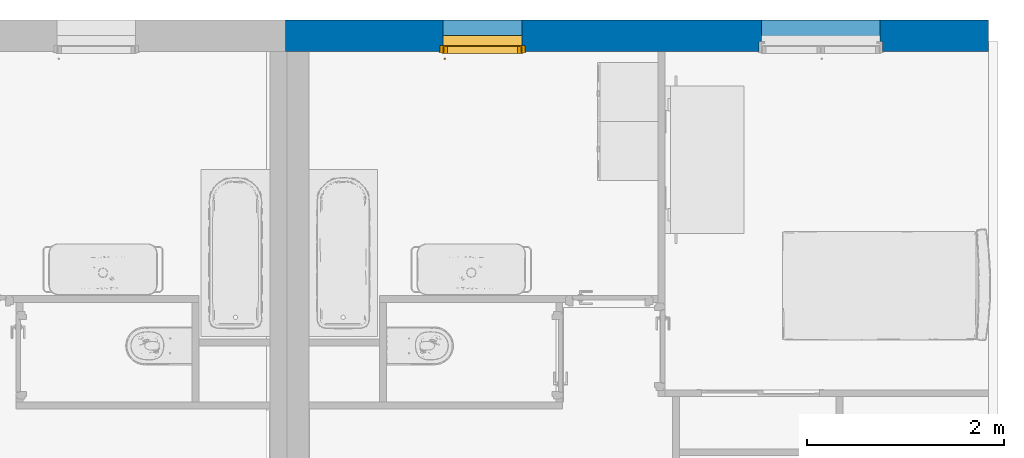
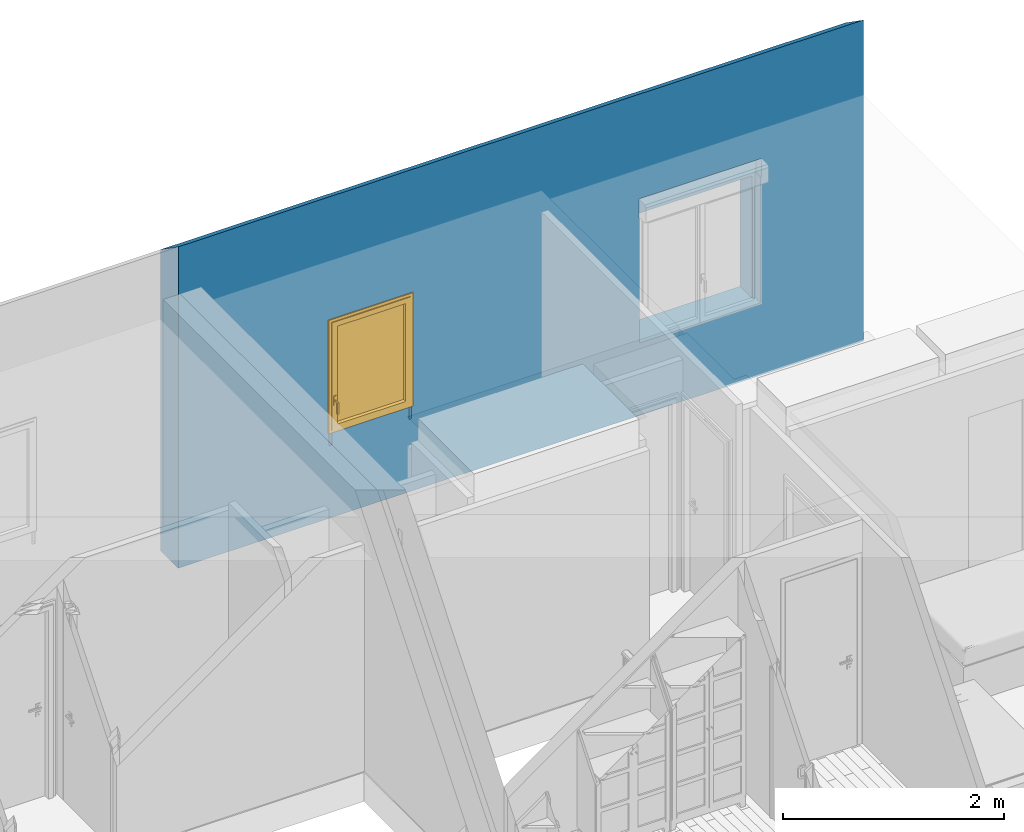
# One storey, part 45 of 61: 1 wall, 1 window, 2 openings.
"""IFC2X3 building model written with IfcOpenShell, lengths in metres."""

import ifcopenshell
import ifcopenshell.guid

model = None  # the IFC model being written
_history = None  # IfcOwnerHistory: only IFC2X3 demands one
_inside = {}  # id of a spatial element -> (the spatial element, [elements in it])
_under = {}  # id of a project, library or spatial element -> (it, [spatial elements below it])
_declared = {}  # id of a project -> (the project, [libraries it declares])
_typed = {}  # id of a type object -> (the type object, [elements of that type])
_made_of = {}  # id of a material, layer set ... -> (it, [elements and type objects made of it])


def new_model(schema):
    """Start an empty IFC model of exactly this schema.

    Asked for "IFC4X3", IfcOpenShell would pick the latest addendum, in which some entities
    have other attributes; the version numbers below select the first issue.
    IFC2X3 requires an IfcOwnerHistory on every rooted entity: one is made here for all.
    """
    global model, _history
    if schema == "IFC4X3":
        model = ifcopenshell.file(schema_version=(4, 3, 0, 0))
    else:
        model = ifcopenshell.file(schema=schema)
    _inside.clear()
    _under.clear()
    _declared.clear()
    _typed.clear()
    _made_of.clear()
    _history = None
    if model.schema == "IFC2X3":
        org = make("IfcOrganization", Name="unknown")
        user = make(
            "IfcPersonAndOrganization",
            ThePerson=make("IfcPerson", FamilyName="unknown"),
            TheOrganization=org,
        )
        app = make(
            "IfcApplication",
            ApplicationDeveloper=org,
            Version="unknown",
            ApplicationFullName="unknown",
            ApplicationIdentifier="unknown",
        )
        _history = make(
            "IfcOwnerHistory",
            OwningUser=user,
            OwningApplication=app,
            ChangeAction="ADDED",
            CreationDate=0,
        )
    return model


def make(cls, **values):
    """One entity of the class cls with the attributes given. An attribute that is None is left unset."""
    return model.create_entity(
        cls, **{name: value for name, value in values.items() if value is not None}
    )


def entity(cls, *values):
    """Any entity or typed value of the class cls, its attributes in the order of the schema. None: left unset."""
    e = model.create_entity(cls)
    for i, value in enumerate(values):
        if value is not None:
            e[i] = value
    return e


def rooted(cls, **values):
    """An entity with a GlobalId (a new one), such as an element, a storey or a relation."""
    return make(cls, GlobalId=ifcopenshell.guid.new(), OwnerHistory=_history, **values)


def si_unit(unit_type, name, prefix=None):
    """IfcSIUnit, for example si_unit("LENGTHUNIT", "METRE", prefix="MILLI")."""
    return make("IfcSIUnit", UnitType=unit_type, Prefix=prefix, Name=name)


def converted_unit(unit_type, name, factor, base, dimensions=None, offset=None):
    """IfcConversionBasedUnit, such as the inch: factor (a typed value) times the base unit."""
    return make(
        "IfcConversionBasedUnit"
        if offset is None
        else "IfcConversionBasedUnitWithOffset",
        ConversionOffset=offset,
        Dimensions=None
        if dimensions is None
        else entity("IfcDimensionalExponents", *dimensions),
        UnitType=unit_type,
        Name=name,
        ConversionFactor=make(
            "IfcMeasureWithUnit", ValueComponent=factor, UnitComponent=base
        ),
    )


def derived_unit(unit_type, elements):
    """IfcDerivedUnit: a product of units, each with its exponent."""
    return make(
        "IfcDerivedUnit",
        Elements=[
            make("IfcDerivedUnitElement", Unit=unit, Exponent=power)
            for unit, power in elements
        ],
        UnitType=unit_type,
    )


def assignment(units):
    """IfcUnitAssignment: the units of a project."""
    return None if units is None else make("IfcUnitAssignment", Units=units)


def point(xyz):
    """IfcCartesianPoint."""
    return None if xyz is None else make("IfcCartesianPoint", Coordinates=xyz)


def direction(xyz):
    """IfcDirection."""
    return None if xyz is None else make("IfcDirection", DirectionRatios=xyz)


def frame(location, z_axis=None, x_axis=None):
    """IfcAxis2Placement3D, a coordinate frame: its origin and axes. An axis left out is left unset."""
    return make(
        "IfcAxis2Placement3D",
        Location=point(location),
        Axis=direction(z_axis),
        RefDirection=direction(x_axis),
    )


def frame_2d(location, x_axis=None):
    """IfcAxis2Placement2D, a coordinate frame in the plane: its origin and x axis."""
    return make(
        "IfcAxis2Placement2D", Location=point(location), RefDirection=direction(x_axis)
    )


def origin():
    """The frame at (0, 0, 0) with its axes left unset."""
    return frame((0.0, 0.0, 0.0))


def place(relative_to, where):
    """IfcLocalPlacement: puts the frame where relative to a parent placement (None: the world)."""
    return make(
        "IfcLocalPlacement", PlacementRelTo=relative_to, RelativePlacement=where
    )


def context(
    kind, dimensions, precision=None, world=None, true_north=None, identifier=None
):
    """IfcGeometricRepresentationContext, for example the 3D "Model" context."""
    return make(
        "IfcGeometricRepresentationContext",
        ContextIdentifier=identifier,
        ContextType=kind,
        CoordinateSpaceDimension=dimensions,
        Precision=precision,
        WorldCoordinateSystem=world,
        TrueNorth=true_north,
    )


def subcontext(parent, identifier, kind, view, scale=None):
    """IfcGeometricRepresentationSubContext, for example "Body" below "Model"."""
    return make(
        "IfcGeometricRepresentationSubContext",
        ContextIdentifier=identifier,
        ContextType=kind,
        ParentContext=parent,
        TargetScale=scale,
        TargetView=view,
    )


def project(units=None, contexts=None):
    """IfcProject with its units and contexts."""
    return rooted(
        "IfcProject",
        Name="project",
        RepresentationContexts=contexts,
        UnitsInContext=assignment(units),
    )


def spatial(cls, under=None, at=None, **own):
    """A site, building, storey or space (cls), placed at a placement, below another one or the project."""
    s = rooted(cls, ObjectPlacement=at, **own)
    if under is not None:
        _under.setdefault(under.id(), (under, []))[1].append(s)
    return s


def polyline(points):
    """IfcPolyline through the points."""
    return make("IfcPolyline", Points=[point(p) for p in points])


def profile(cls, at=None, kind="AREA", **sizes):
    """A parametric profile (cls). Its sizes go by their IFC names, for example OverallWidth=200.0."""
    return make(cls, ProfileType=kind, Position=at, **sizes)


def rectangle(**sizes):
    """IfcRectangleProfileDef."""
    return profile("IfcRectangleProfileDef", **sizes)


def extrude(swept, where, along, depth):
    """IfcExtrudedAreaSolid: the profile swept, set in the frame where, extruded along a direction by depth."""
    return make(
        "IfcExtrudedAreaSolid",
        SweptArea=swept,
        Position=where,
        ExtrudedDirection=direction(along),
        Depth=depth,
    )


def clip(a, b, op="DIFFERENCE"):
    """IfcBooleanClippingResult: the solid a cut by the half space b."""
    return make(
        "IfcBooleanClippingResult", Operator=op, FirstOperand=a, SecondOperand=b
    )


def bounded_halfspace(plane, agree, where, boundary):
    """IfcPolygonalBoundedHalfSpace: a half space limited to a polygon's prism."""
    return make(
        "IfcPolygonalBoundedHalfSpace",
        BaseSurface=make("IfcPlane", Position=plane),
        AgreementFlag=agree,
        Position=where,
        PolygonalBoundary=boundary,
    )


def faces_of(points, faces, orient=None, outer=None):
    """IfcFace entities. A face is a list of loops; a loop is a list of indices into points, from 0.

    orient and outer hold one flag for each loop. By default every Orientation is true, the
    first loop of a face is its IfcFaceOuterBound and the others are IfcFaceBound.
    """
    made = []
    for i, loops in enumerate(faces):
        bounds = []
        for j, loop in enumerate(loops):
            is_outer = j == 0 if outer is None else outer[i][j]
            bounds.append(
                make(
                    "IfcFaceOuterBound" if is_outer else "IfcFaceBound",
                    Bound=make("IfcPolyLoop", Polygon=[points[k] for k in loop]),
                    Orientation=True if orient is None else orient[i][j],
                )
            )
        made.append(make("IfcFace", Bounds=bounds))
    return made


def faceted_brep(points, faces, orient=None, outer=None, voids=None):
    """IfcFacetedBrep: a solid bounded by flat faces; with voids (closed shells), ...WithVoids."""
    shared = [point(p) for p in points]
    hull = make("IfcClosedShell", CfsFaces=faces_of(shared, faces, orient, outer))
    if voids is None:
        return make("IfcFacetedBrep", Outer=hull)
    return make(
        "IfcFacetedBrepWithVoids",
        Outer=hull,
        Voids=[
            make(cls, CfsFaces=faces_of(shared, fs, o, b)) for cls, fs, o, b in voids
        ],
    )


def shape(context_of_items, identifier, shape_type, items):
    """IfcShapeRepresentation: the items that make up one representation, for example the "Body"."""
    return make(
        "IfcShapeRepresentation",
        ContextOfItems=context_of_items,
        RepresentationIdentifier=identifier,
        RepresentationType=shape_type,
        Items=items,
    )


def source(mapping_origin, context_of_items, identifier, shape_type, items):
    """IfcRepresentationMap: a shape defined once, which mapped items show again and again."""
    return make(
        "IfcRepresentationMap",
        MappingOrigin=mapping_origin,
        MappedRepresentation=shape(context_of_items, identifier, shape_type, items),
    )


def transform(
    local_origin,
    x_axis=None,
    y_axis=None,
    z_axis=None,
    scale=None,
    scale2=None,
    scale3=None,
    uniform=True,
):
    """IfcCartesianTransformationOperator3D, or its non-uniform kind. x_axis, y_axis, z_axis: its Axis1, 2, 3."""
    if uniform:
        return make(
            "IfcCartesianTransformationOperator3D",
            Axis1=direction(x_axis),
            Axis2=direction(y_axis),
            LocalOrigin=point(local_origin),
            Scale=scale,
            Axis3=direction(z_axis),
        )
    return make(
        "IfcCartesianTransformationOperator3DnonUniform",
        Axis1=direction(x_axis),
        Axis2=direction(y_axis),
        LocalOrigin=point(local_origin),
        Scale=scale,
        Axis3=direction(z_axis),
        Scale2=scale2,
        Scale3=scale3,
    )


def mapped(mapping_source, mapping_target):
    """IfcMappedItem: shows the shape of a source again, moved by a transform."""
    return make(
        "IfcMappedItem", MappingSource=mapping_source, MappingTarget=mapping_target
    )


def material(Name=None, Category=None):
    """IfcMaterial."""
    return make("IfcMaterial", Name=Name, Category=Category)


def material_list(materials):
    """IfcMaterialList."""
    return make("IfcMaterialList", Materials=materials)


def layer(
    of_material, thickness, ventilated=None, Name=None, Category=None, Priority=None
):
    """IfcMaterialLayer: one layer of a wall or slab, of a material (None: an air gap)."""
    return make(
        "IfcMaterialLayer",
        Material=of_material,
        LayerThickness=thickness,
        IsVentilated=ventilated,
        Name=Name,
        Category=Category,
        Priority=Priority,
    )


def layer_set(layers, Name=None):
    """IfcMaterialLayerSet."""
    return make("IfcMaterialLayerSet", MaterialLayers=layers, LayerSetName=Name)


def layer_usage(for_layer_set, set_direction, sense, offset, extent=None):
    """IfcMaterialLayerSetUsage: how a layer set lies in its element."""
    return make(
        "IfcMaterialLayerSetUsage",
        ForLayerSet=for_layer_set,
        LayerSetDirection=set_direction,
        DirectionSense=sense,
        OffsetFromReferenceLine=offset,
        ReferenceExtent=extent,
    )


def made_of(thing, what):
    """Note that an element or type object is made of a material, layer set ...; save() writes the relation."""
    if what is not None:
        _made_of.setdefault(what.id(), (what, []))[1].append(thing)
    return thing


def type_object(cls, material=None, **own):
    """A type object (cls), such as IfcWallType, which elements share."""
    return made_of(rooted(cls, **own), material)


def type_shapes(of_type, sources):
    """Give a type object the sources (RepresentationMaps) that its elements show as mapped items."""
    of_type.RepresentationMaps = sources


def element(
    cls,
    number,
    at=None,
    inside=None,
    cuts=None,
    type_object=None,
    material=None,
    context=None,
    identifier="Body",
    shape_type=None,
    held_by="IfcProductDefinitionShape",
    body=None,
    shapes=None,
    **own,
):
    """One element of the class cls, such as IfcWall. Its Tag is "e" and its number.

    at: its placement. inside: the storey or other place that contains it. cuts: it is an
    opening in that element (IfcRelVoidsElement). A single representation is given by context,
    identifier, shape_type and body (its items); several are given by shapes. held_by: the class
    of the entity that holds the representations. save() writes the other relations.
    """
    e = rooted(cls, Tag="e%d" % number, ObjectPlacement=at, **own)
    if body is not None:
        shapes = [shape(context, identifier, shape_type, body)]
    if shapes is not None:
        e.Representation = make(held_by, Representations=shapes)
    if inside is not None:
        _inside.setdefault(inside.id(), (inside, []))[1].append(e)
    if cuts is not None:
        rooted(
            "IfcRelVoidsElement", RelatingBuildingElement=cuts, RelatedOpeningElement=e
        )
    if type_object is not None:
        _typed.setdefault(type_object.id(), (type_object, []))[1].append(e)
    return made_of(e, material)


def fill(opening, filler):
    """IfcRelFillsElement: the door or window that sits in an opening."""
    return rooted(
        "IfcRelFillsElement",
        RelatingOpeningElement=opening,
        RelatedBuildingElement=filler,
    )


def aggregate(whole, parts):
    """IfcRelAggregates: a whole, such as a stair, and the parts it consists of."""
    return rooted("IfcRelAggregates", RelatingObject=whole, RelatedObjects=parts)


def save(model, path):
    """Write the relations noted so far, then the file.

    IfcRelAggregates (storeys below a building ...), IfcRelContainedInSpatialStructure (elements
    in a storey), IfcRelDefinesByType, IfcRelAssociatesMaterial and IfcRelDeclares: one each for
    every whole, place, type object, material and project.
    """
    for whole, parts in _under.values():
        aggregate(whole, parts)
    for where, things in _inside.values():
        rooted(
            "IfcRelContainedInSpatialStructure",
            RelatedElements=things,
            RelatingStructure=where,
        )
    for kind, things in _typed.values():
        rooted("IfcRelDefinesByType", RelatedObjects=things, RelatingType=kind)
    for what, things in _made_of.values():
        rooted("IfcRelAssociatesMaterial", RelatedObjects=things, RelatingMaterial=what)
    for by, libraries in _declared.values():
        rooted("IfcRelDeclares", RelatingContext=by, RelatedDefinitions=libraries)
    model.write(path)


model = new_model("IFC2X3")

# Units and contexts
model_context = context("Model", 3, precision=1e-05, world=origin(), true_north=direction((6.12303176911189e-17, 1.0)))
body_context = subcontext(model_context, "Body", "Model", "MODEL_VIEW")
ifc_project = project(units=[si_unit("LENGTHUNIT", "METRE"), si_unit("AREAUNIT", "SQUARE_METRE"), si_unit("VOLUMEUNIT", "CUBIC_METRE"), converted_unit("PLANEANGLEUNIT", "DEGREE", entity("IfcRatioMeasure", 0.0174532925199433), si_unit("PLANEANGLEUNIT", "RADIAN"), dimensions=[0, 0, 0, 0, 0, 0, 0]), si_unit("MASSUNIT", "GRAM", prefix="KILO"), derived_unit("MASSDENSITYUNIT", [(si_unit("MASSUNIT", "GRAM", prefix="KILO"), 1), (si_unit("LENGTHUNIT", "METRE"), -3)]), si_unit("TIMEUNIT", "SECOND"), si_unit("FREQUENCYUNIT", "HERTZ"), si_unit("THERMODYNAMICTEMPERATUREUNIT", "DEGREE_CELSIUS"), derived_unit("THERMALTRANSMITTANCEUNIT", [(si_unit("MASSUNIT", "GRAM", prefix="KILO"), 1), (si_unit("THERMODYNAMICTEMPERATUREUNIT", "KELVIN"), -1), (si_unit("TIMEUNIT", "SECOND"), -3)]), derived_unit("VOLUMETRICFLOWRATEUNIT", [(si_unit("LENGTHUNIT", "METRE"), 3), (si_unit("TIMEUNIT", "SECOND"), -1)]), si_unit("ELECTRICCURRENTUNIT", "AMPERE"), si_unit("ELECTRICVOLTAGEUNIT", "VOLT"), si_unit("POWERUNIT", "WATT"), si_unit("FORCEUNIT", "NEWTON", prefix="KILO"), si_unit("ILLUMINANCEUNIT", "LUX"), si_unit("LUMINOUSFLUXUNIT", "LUMEN"), si_unit("LUMINOUSINTENSITYUNIT", "CANDELA"), derived_unit("USERDEFINED", [(si_unit("MASSUNIT", "GRAM", prefix="KILO"), -1), (si_unit("LENGTHUNIT", "METRE"), -2), (si_unit("TIMEUNIT", "SECOND"), 3), (si_unit("LUMINOUSFLUXUNIT", "LUMEN"), 1)]), derived_unit("LINEARVELOCITYUNIT", [(si_unit("LENGTHUNIT", "METRE"), 1), (si_unit("TIMEUNIT", "SECOND"), -1)]), si_unit("PRESSUREUNIT", "PASCAL"), derived_unit("USERDEFINED", [(si_unit("LENGTHUNIT", "METRE"), -2), (si_unit("MASSUNIT", "GRAM", prefix="KILO"), 1), (si_unit("TIMEUNIT", "SECOND"), -2)])], contexts=[model_context])

# Site, building, storey
site_placement = place(None, origin())
site = spatial("IfcSite", under=ifc_project, at=site_placement, Name="Surface", CompositionType="ELEMENT")
building_placement = place(site_placement, origin())
building = spatial("IfcBuilding", under=site, at=building_placement, CompositionType="ELEMENT")
storey_placement = place(building_placement, frame((0.0, 0.0, 2.82)))
storey = spatial("IfcBuildingStorey", under=building, at=storey_placement, Name="ETAGE", CompositionType="ELEMENT", Elevation=2.82)

# Wall, openings, window
ifc_material_1 = material(Name="Enduit blanc cassé2")
ifc_layer_1 = layer(ifc_material_1, 0.02)
ifc_material_2 = material(Name="Parpaing")
ifc_layer_2 = layer(ifc_material_2, 0.2)
ifc_material_3 = material(Name="Isolant")
ifc_layer_3 = layer(ifc_material_3, 0.1)
ifc_layer_set = layer_set([ifc_layer_1, ifc_layer_2, ifc_layer_3], Name="Mur de base:Ext. Parpaing 20 + Isolant 10 enduit blanc cassé")
ifc_layer_usage = layer_usage(ifc_layer_set, "AXIS2", "NEGATIVE", 0.16)
wall_type = type_object("IfcWallType", Name="Mur de base:Ext. Parpaing 20 + Isolant 10 enduit blanc cassé", PredefinedType="STANDARD", material=ifc_layer_set)
wall_placement = place(storey_placement, frame((83.6889023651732, 92.3075239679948, 0.0)))
wall = element("IfcWallStandardCase", 1, at=wall_placement, inside=storey, type_object=wall_type, material=ifc_layer_usage, Name="Mur de base:Ext. Parpaing 20 + Isolant 10 enduit blanc cassé", ObjectType="Mur de base:Ext. Parpaing 20 + Isolant 10 enduit blanc cassé", context=body_context, shape_type="Clipping", body=[
    clip(clip(extrude(rectangle(XDim=7.14614635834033, YDim=0.319999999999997, at=frame_2d((3.57307317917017, 2.06779038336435e-15), x_axis=(-1.0, 0.0))), origin(), (0.0, 0.0, 1.0), 3.5440664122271), bounded_halfspace(frame((0.0, 0.159999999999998, 3.32), z_axis=(0.0, 0.573576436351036, 0.819152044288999), x_axis=(-1.0, 0.0, 0.0)), False, frame((0.0, 0.159999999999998, 3.32)), polyline([(0.0, 0.0), (0.0, -0.319999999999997), (0.017500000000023, -0.319999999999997), (0.0625000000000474, -0.319999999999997), (0.237500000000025, -0.319999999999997), (7.14614635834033, -0.319999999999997), (7.14614635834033, 0.0), (0.0, 0.0)]))), bounded_halfspace(frame((7.14614635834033, -0.159999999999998, 3.5440664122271), z_axis=(-1.0, 0.0, 0.0), x_axis=(0.0, -1.0, 0.0)), True, frame((7.14614635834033, -0.159999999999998, 3.5440664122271), z_axis=(-1.0, 0.0, 0.0), x_axis=(0.0, -1.0, 0.0)), polyline([(0.0, 0.0), (-0.319999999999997, -0.224066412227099), (-0.319999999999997, -3.5440664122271), (0.0, -3.5440664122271), (0.0, 0.0)]))),
])
opening_1_placement = place(wall_placement, frame((1.57394170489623, -0.259999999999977, 0.799999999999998)))
opening_1 = element("IfcOpeningElement", 2, at=opening_1_placement, cuts=wall, Name="Mur de base:Ext. Parpaing 20 + Isolant 10 enduit blanc cassé", ObjectType="Opening", context=body_context, shape_type="Brep", body=[
    faceted_brep([(0.830000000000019, 0.0, 1.35), (0.830000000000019, 0.0999999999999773, 1.35), (0.0300000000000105, 0.0999999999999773, 1.35), (0.0300000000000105, 0.0, 1.35), (0.830000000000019, 0.720000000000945, 0.150000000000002), (0.830000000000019, 0.159999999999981, 0.150000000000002), (0.830000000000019, 0.0999999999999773, 0.150000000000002), (0.830000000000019, 0.0, 0.150000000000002), (0.0300000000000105, 0.0, 0.150000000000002), (0.0300000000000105, 0.0999999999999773, 0.150000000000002), (0.0300000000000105, 0.159999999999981, 0.150000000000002), (0.0300000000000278, 0.720000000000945, 0.150000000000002), (0.830000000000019, 0.720000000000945, 1.35), (0.0300000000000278, 0.720000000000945, 1.35), (0.830000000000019, 0.159999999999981, 1.35), (0.0300000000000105, 0.159999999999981, 0.0), (0.0300000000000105, 0.0999999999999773, 0.0), (0.0, 0.0999999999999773, 0.0), (0.0, 0.159999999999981, 0.0), (0.830000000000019, 0.0999999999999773, 0.0), (0.860000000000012, 0.0999999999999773, 0.0), (0.860000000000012, 0.0999999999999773, 1.38), (0.0, 0.0999999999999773, 1.38), (0.0, 0.159999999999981, 1.38), (0.860000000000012, 0.159999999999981, 1.38), (0.860000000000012, 0.159999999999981, 0.0), (0.830000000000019, 0.159999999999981, 0.0), (0.0300000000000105, 0.159999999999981, 1.35)], [[[0, 1, 2, 3]], [[4, 5, 6, 7, 8, 9, 10, 11]], [[12, 4, 11, 13]], [[3, 2, 9, 8]], [[3, 8, 7, 0]], [[12, 14, 5, 4]], [[15, 16, 17, 18]], [[15, 10, 9, 16]], [[16, 9, 2, 1, 6, 19, 20, 21, 22, 17]], [[17, 22, 23, 18]], [[18, 23, 24, 25, 26, 5, 14, 27, 10, 15]], [[21, 24, 23, 22]], [[19, 26, 25, 20]], [[19, 6, 5, 26]], [[20, 25, 24, 21]], [[7, 6, 1, 0]], [[11, 10, 27, 13]], [[13, 27, 14, 12]]]),
])
opening_2_placement = place(wall_placement, frame((4.80307317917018, -0.260000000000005, 0.799999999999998)))
element("IfcOpeningElement", 3, at=opening_2_placement, cuts=wall, Name="Mur de base:Ext. Parpaing 20 + Isolant 10 enduit blanc cassé", ObjectType="Opening", context=body_context, shape_type="Brep", body=[
    faceted_brep([(1.24, 0.0, 1.35), (1.24, 0.0999999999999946, 1.35), (0.0399999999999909, 0.0999999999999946, 1.35), (0.0399999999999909, 0.0, 1.35), (1.24, 0.720000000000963, 0.0), (1.24, 0.199999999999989, 0.0), (1.26999999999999, 0.199999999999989, 0.0), (1.26999999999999, 0.0999999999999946, 0.0), (1.24, 0.0999999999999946, 0.0), (1.24, 0.0, 0.0), (0.0399999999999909, 0.0, 0.0), (0.0399999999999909, 0.0999999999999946, 0.0), (0.00999999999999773, 0.0999999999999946, 0.0), (0.00999999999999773, 0.200000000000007, 0.0), (0.0399999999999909, 0.200000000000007, 0.0), (0.0399999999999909, 0.720000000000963, 0.0), (1.24, 0.720000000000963, 1.35), (0.0399999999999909, 0.720000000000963, 1.35), (1.24, 0.200000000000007, 1.35), (1.27000000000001, 0.0999999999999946, 1.38), (1.28000000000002, 0.100000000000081, 1.38000000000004), (1.28000000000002, 0.100000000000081, 1.59000000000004), (0.0, 0.100000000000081, 1.59000000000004), (0.0, 0.0999999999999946, 1.38000000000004), (0.00999999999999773, 0.0999999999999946, 1.38), (0.00999999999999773, 0.199999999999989, 1.38), (0.0, 0.200000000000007, 1.38000000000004), (0.0, 0.199999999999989, 1.59000000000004), (1.28000000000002, 0.200000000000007, 1.59000000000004), (1.28000000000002, 0.200000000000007, 1.38000000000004), (1.27000000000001, 0.199999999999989, 1.38), (0.0400000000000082, 0.199999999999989, 1.35)], [[[0, 1, 2, 3]], [[4, 5, 6, 7, 8, 9, 10, 11, 12, 13, 14, 15]], [[16, 4, 15, 17]], [[3, 2, 11, 10]], [[3, 10, 9, 0]], [[16, 18, 5, 4]], [[11, 2, 1, 8, 7, 19, 20, 21, 22, 23, 24, 12]], [[12, 24, 25, 13]], [[13, 25, 26, 27, 28, 29, 30, 6, 5, 18, 31, 14]], [[7, 6, 30, 19]], [[26, 23, 22, 27]], [[29, 28, 21, 20]], [[26, 25, 24, 23]], [[22, 21, 28, 27]], [[20, 19, 30, 29]], [[9, 8, 1, 0]], [[15, 14, 31, 17]], [[17, 31, 18, 16]]]),
])
ifc_material_4 = material(Name="Plastique - Bouvet - Blanc W012")
ifc_material_5 = material(Name="Verre - Bouvet - Vitrage")
ifc_material_6 = material(Name="Polyamide - Bouvet - Joint-Intercalaire")
ifc_material_list_1 = material_list([ifc_material_4, ifc_material_5, ifc_material_6])
ifc_material_list_2 = material_list([ifc_material_4, ifc_material_5, ifc_material_6])
window_style = type_object("IfcWindowStyle", Name="800 x 120 ht", ConstructionType="NOTDEFINED", OperationType="NOTDEFINED", ParameterTakesPrecedence=False, Sizeable=False, material=ifc_material_list_2)
shared_shape = source(origin(), body_context, "Body", "Brep", [
    faceted_brep([(0.0549999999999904, -0.650000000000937, 0.492500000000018), (0.0399999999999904, -0.650000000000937, 0.492500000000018), (0.0399999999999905, -0.650000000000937, 0.507500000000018), (0.0549999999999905, -0.650000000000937, 0.507500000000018), (0.0549999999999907, -0.685000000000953, 0.492500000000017), (0.0399999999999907, -0.685000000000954, 0.492500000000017), (0.0399999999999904, -0.685000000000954, 0.3775), (0.0399999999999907, -0.700000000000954, 0.3775), (0.0399999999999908, -0.700000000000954, 0.507500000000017), (0.0549999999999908, -0.700000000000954, 0.507500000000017), (0.0549999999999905, -0.700000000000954, 0.3775), (0.0549999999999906, -0.685000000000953, 0.3775)], [[[0, 1, 2, 3]], [[1, 0, 4, 5]], [[2, 1, 5, 6, 7, 8]], [[3, 2, 8, 9]], [[0, 3, 9, 10, 11, 4]], [[11, 10, 7, 6]], [[5, 4, 11, 6]], [[9, 8, 7, 10]]]),
    faceted_brep([(0.0625000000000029, -0.650000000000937, 0.550000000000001), (0.0325000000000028, -0.650000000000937, 0.550000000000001), (0.0325000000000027, -0.650000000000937, 0.450000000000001), (0.0625000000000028, -0.650000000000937, 0.450000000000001), (0.062500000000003, -0.640000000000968, 0.550000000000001), (0.0625000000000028, -0.640000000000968, 0.450000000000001), (0.0325000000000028, -0.640000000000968, 0.450000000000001), (0.0325000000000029, -0.640000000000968, 0.550000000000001)], [[[0, 1, 2, 3]], [[4, 5, 6, 7]], [[1, 0, 4, 7]], [[2, 1, 7, 6]], [[3, 2, 6, 5]], [[0, 3, 5, 4]]]),
    faceted_brep([(0.796999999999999, -0.602000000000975, 0.213), (0.0630000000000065, -0.60200000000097, 0.213), (0.0630000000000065, -0.59800000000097, 0.213), (0.796999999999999, -0.598000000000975, 0.213), (0.796999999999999, -0.602000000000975, 1.31700000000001), (0.0630000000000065, -0.60200000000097, 1.31700000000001), (0.0630000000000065, -0.59800000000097, 1.31700000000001), (0.796999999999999, -0.598000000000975, 1.31700000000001)], [[[0, 1, 2, 3]], [[4, 5, 1, 0]], [[5, 6, 2, 1]], [[6, 7, 3, 2]], [[7, 4, 0, 3]], [[4, 7, 6, 5]]]),
    faceted_brep([(0.0630000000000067, -0.58200000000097, 1.31700000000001), (0.0630000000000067, -0.57800000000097, 1.31700000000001), (0.0630000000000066, -0.57800000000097, 0.213), (0.0630000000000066, -0.58200000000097, 0.213), (0.796999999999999, -0.578000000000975, 1.31700000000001), (0.796999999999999, -0.578000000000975, 0.213), (0.796999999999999, -0.582000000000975, 1.31700000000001), (0.796999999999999, -0.582000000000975, 0.213)], [[[0, 1, 2, 3]], [[1, 4, 5, 2]], [[4, 6, 7, 5]], [[6, 0, 3, 7]], [[0, 6, 4, 1]], [[3, 2, 5, 7]]]),
    faceted_brep([(0.0750000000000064, -0.582000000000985, 1.30499999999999), (0.0750000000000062, -0.598000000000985, 1.30499999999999), (0.0750000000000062, -0.59800000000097, 0.225000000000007), (0.0750000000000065, -0.58200000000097, 0.225000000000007), (0.784999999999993, -0.598000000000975, 0.225000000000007), (0.784999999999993, -0.582000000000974, 0.225000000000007), (0.784999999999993, -0.59800000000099, 1.30499999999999), (0.796999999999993, -0.598000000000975, 0.213000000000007), (0.796999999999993, -0.59800000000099, 1.31699999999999), (0.0630000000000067, -0.598000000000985, 1.31699999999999), (0.0630000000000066, -0.59800000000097, 0.213000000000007), (0.784999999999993, -0.582000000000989, 1.30499999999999), (0.0630000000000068, -0.582000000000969, 0.213000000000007), (0.0630000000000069, -0.582000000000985, 1.31699999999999), (0.796999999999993, -0.58200000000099, 1.31699999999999), (0.796999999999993, -0.582000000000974, 0.213000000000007)], [[[0, 1, 2, 3]], [[3, 2, 4, 5]], [[2, 1, 6, 4], [7, 8, 9, 10]], [[5, 4, 6, 11]], [[5, 11, 0, 3], [12, 13, 14, 15]], [[9, 13, 12, 10]], [[10, 12, 15, 7]], [[7, 15, 14, 8]], [[11, 6, 1, 0]], [[8, 14, 13, 9]]], outer=[[True], [True], [False, True], [True], [False, True], [True], [True], [True], [True], [True]]),
    faceted_brep([(0.0630000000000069, -0.578000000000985, 1.31699999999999), (0.0630000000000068, -0.602000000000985, 1.31699999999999), (0.0630000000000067, -0.60200000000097, 0.213000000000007), (0.0630000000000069, -0.57800000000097, 0.213000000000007), (0.796999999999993, -0.602000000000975, 0.213000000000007), (0.796999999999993, -0.578000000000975, 0.213000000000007), (0.796999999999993, -0.60200000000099, 1.31699999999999), (0.804999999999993, -0.602000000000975, 0.205000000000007), (0.804999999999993, -0.60200000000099, 1.32499999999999), (0.0550000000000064, -0.602000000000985, 1.32499999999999), (0.0550000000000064, -0.60200000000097, 0.205000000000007), (0.796999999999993, -0.57800000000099, 1.31699999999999), (0.0550000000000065, -0.57800000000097, 0.205000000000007), (0.0550000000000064, -0.578000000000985, 1.32499999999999), (0.804999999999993, -0.57800000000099, 1.32499999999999), (0.804999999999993, -0.578000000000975, 0.205000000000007)], [[[0, 1, 2, 3]], [[3, 2, 4, 5]], [[2, 1, 6, 4], [7, 8, 9, 10]], [[5, 4, 6, 11]], [[5, 11, 0, 3], [12, 13, 14, 15]], [[9, 13, 12, 10]], [[10, 12, 15, 7]], [[7, 15, 14, 8]], [[11, 6, 1, 0]], [[8, 14, 13, 9]]], outer=[[True], [True], [False, True], [True], [False, True], [True], [True], [True], [True], [True]]),
    faceted_brep([(0.0400000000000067, -0.59000000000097, 1.33999999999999), (0.0400000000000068, -0.57000000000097, 1.33999999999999), (0.0400000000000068, -0.570000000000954, 0.190000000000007), (0.0400000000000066, -0.590000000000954, 0.190000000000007), (0.819999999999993, -0.570000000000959, 0.190000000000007), (0.819999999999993, -0.590000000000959, 0.190000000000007), (0.819999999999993, -0.570000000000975, 1.33999999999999), (0.784999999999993, -0.570000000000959, 0.225000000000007), (0.784999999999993, -0.570000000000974, 1.30499999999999), (0.0750000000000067, -0.570000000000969, 1.30499999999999), (0.0750000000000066, -0.570000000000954, 0.225000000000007), (0.819999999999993, -0.590000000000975, 1.33999999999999), (0.0550000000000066, -0.590000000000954, 0.205000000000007), (0.0550000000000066, -0.59000000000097, 1.32499999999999), (0.804999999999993, -0.590000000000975, 1.32499999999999), (0.804999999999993, -0.590000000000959, 0.205000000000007), (0.0550000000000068, -0.57800000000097, 1.32499999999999), (0.0550000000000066, -0.578000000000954, 0.205000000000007), (0.804999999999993, -0.578000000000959, 0.205000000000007), (0.804999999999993, -0.578000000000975, 1.32499999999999), (0.0750000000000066, -0.578000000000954, 0.225000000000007), (0.0750000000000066, -0.578000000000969, 1.30499999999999), (0.784999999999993, -0.578000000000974, 1.30499999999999), (0.784999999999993, -0.578000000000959, 0.225000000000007)], [[[0, 1, 2, 3]], [[3, 2, 4, 5]], [[2, 1, 6, 4], [7, 8, 9, 10]], [[5, 4, 6, 11]], [[5, 11, 0, 3], [12, 13, 14, 15]], [[16, 13, 12, 17]], [[17, 12, 15, 18]], [[18, 15, 14, 19]], [[18, 19, 16, 17], [20, 21, 22, 23]], [[9, 21, 20, 10]], [[10, 20, 23, 7]], [[7, 23, 22, 8]], [[11, 6, 1, 0]], [[19, 14, 13, 16]], [[8, 22, 21, 9]]]),
    faceted_brep([(0.0750000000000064, -0.602000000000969, 1.30499999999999), (0.0750000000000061, -0.64000000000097, 1.30499999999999), (0.0750000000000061, -0.640000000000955, 0.225000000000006), (0.0750000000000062, -0.602000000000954, 0.225000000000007), (0.784999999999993, -0.64000000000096, 0.225000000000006), (0.784999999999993, -0.602000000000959, 0.225000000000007), (0.784999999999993, -0.640000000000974, 1.30499999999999), (0.839999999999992, -0.640000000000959, 0.170000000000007), (0.839999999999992, -0.640000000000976, 1.35999999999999), (0.0200000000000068, -0.64000000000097, 1.35999999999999), (0.0200000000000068, -0.640000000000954, 0.170000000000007), (0.784999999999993, -0.602000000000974, 1.30499999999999), (0.0550000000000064, -0.602000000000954, 0.205000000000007), (0.0550000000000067, -0.60200000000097, 1.32499999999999), (0.804999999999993, -0.602000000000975, 1.32499999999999), (0.804999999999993, -0.602000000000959, 0.205000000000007), (0.0550000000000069, -0.59000000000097, 1.32499999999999), (0.0550000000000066, -0.590000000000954, 0.205000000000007), (0.804999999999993, -0.590000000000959, 0.205000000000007), (0.804999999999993, -0.590000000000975, 1.32499999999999), (0.0400000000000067, -0.590000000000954, 0.190000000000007), (0.0400000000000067, -0.59000000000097, 1.33999999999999), (0.819999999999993, -0.590000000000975, 1.33999999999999), (0.819999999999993, -0.590000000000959, 0.190000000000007), (0.0400000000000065, -0.630000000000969, 1.33999999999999), (0.0400000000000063, -0.630000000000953, 0.190000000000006), (0.819999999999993, -0.630000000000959, 0.190000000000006), (0.819999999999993, -0.630000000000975, 1.33999999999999), (0.0200000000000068, -0.630000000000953, 0.170000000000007), (0.0200000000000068, -0.630000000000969, 1.35999999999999), (0.839999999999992, -0.630000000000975, 1.35999999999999), (0.839999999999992, -0.630000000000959, 0.170000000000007)], [[[0, 1, 2, 3]], [[3, 2, 4, 5]], [[2, 1, 6, 4], [7, 8, 9, 10]], [[5, 4, 6, 11]], [[5, 11, 0, 3], [12, 13, 14, 15]], [[16, 13, 12, 17]], [[17, 12, 15, 18]], [[18, 15, 14, 19]], [[18, 19, 16, 17], [20, 21, 22, 23]], [[24, 21, 20, 25]], [[25, 20, 23, 26]], [[26, 23, 22, 27]], [[26, 27, 24, 25], [28, 29, 30, 31]], [[9, 29, 28, 10]], [[10, 28, 31, 7]], [[7, 31, 30, 8]], [[11, 6, 1, 0]], [[19, 14, 13, 16]], [[27, 22, 21, 24]], [[8, 30, 29, 9]]], outer=[[True], [True], [False, True], [True], [False, True], [True], [True], [True], [False, True], [True], [True], [True], [False, True], [True], [True], [True], [True], [True], [True], [True]]),
    faceted_brep([(0.829999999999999, -0.560000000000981, 0.180000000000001), (0.0299999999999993, -0.560000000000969, 0.180000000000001), (0.0299999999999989, -0.582000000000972, 0.180000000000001), (0.829999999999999, -0.582000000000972, 0.180000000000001), (0.829999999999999, -0.560000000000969, 1.35), (0.0299999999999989, -0.560000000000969, 1.35), (0.0, -0.560000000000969, 0.150000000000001), (0.0, -0.560000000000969, 1.38000000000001), (0.859999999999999, -0.560000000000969, 1.38000000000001), (0.859999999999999, -0.560000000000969, 0.150000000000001), (0.0299999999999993, -0.582000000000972, 1.35), (0.829999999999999, -0.582000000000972, 1.35), (0.0, -0.582000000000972, 1.38000000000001), (0.0, -0.582000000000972, 0.150000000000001), (0.859999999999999, -0.582000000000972, 1.38000000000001), (0.859999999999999, -0.582000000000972, 0.150000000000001)], [[[0, 1, 2, 3]], [[4, 5, 1, 0], [6, 7, 8, 9]], [[5, 10, 2, 1]], [[11, 4, 0, 3]], [[12, 7, 6, 13]], [[8, 14, 15, 9]], [[15, 13, 6, 9]], [[15, 14, 12, 13], [10, 11, 3, 2]], [[7, 12, 14, 8]], [[5, 4, 11, 10]]], outer=[[True], [False, True], [True], [True], [True], [True], [True], [True, False], [True], [True]]),
    faceted_brep([(0.0500000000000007, -0.560000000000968, 1.33), (0.0500000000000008, -0.570000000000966, 1.33), (0.0500000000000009, -0.570000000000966, 0.200000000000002), (0.0500000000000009, -0.560000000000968, 0.200000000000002), (0.809999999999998, -0.570000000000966, 0.200000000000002), (0.809999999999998, -0.560000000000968, 0.200000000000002), (0.809999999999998, -0.570000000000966, 1.33), (0.829999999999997, -0.570000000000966, 0.180000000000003), (0.829999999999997, -0.570000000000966, 1.35), (0.0300000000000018, -0.570000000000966, 1.35), (0.0300000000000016, -0.570000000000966, 0.180000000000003), (0.809999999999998, -0.560000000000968, 1.33), (0.0300000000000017, -0.560000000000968, 0.180000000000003), (0.0300000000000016, -0.560000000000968, 1.35), (0.829999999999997, -0.560000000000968, 1.35), (0.829999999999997, -0.560000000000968, 0.180000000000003)], [[[0, 1, 2, 3]], [[3, 2, 4, 5]], [[2, 1, 6, 4], [7, 8, 9, 10]], [[5, 4, 6, 11]], [[5, 11, 0, 3], [12, 13, 14, 15]], [[11, 6, 1, 0]], [[9, 13, 12, 10]], [[10, 12, 15, 7]], [[7, 15, 14, 8]], [[8, 14, 13, 9]]], outer=[[True], [True], [False, True], [True], [False, True], [True], [True], [True], [True], [True]]),
    faceted_brep([(0.0, -0.620000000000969, 1.38), (0.0, -0.582000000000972, 1.38), (0.0, -0.582000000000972, 0.150000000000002), (0.0, -0.620000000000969, 0.150000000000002), (0.859999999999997, -0.582000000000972, 0.150000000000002), (0.859999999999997, -0.620000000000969, 0.150000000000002), (0.859999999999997, -0.582000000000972, 1.38), (0.829999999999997, -0.582000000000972, 0.180000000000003), (0.829999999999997, -0.582000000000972, 1.35), (0.0300000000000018, -0.582000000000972, 1.35), (0.0300000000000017, -0.582000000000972, 0.180000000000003), (0.859999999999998, -0.620000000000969, 1.38), (-0.00999999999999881, -0.620000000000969, 0.140000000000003), (-0.00999999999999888, -0.620000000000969, 1.39), (0.869999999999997, -0.620000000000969, 1.39), (0.869999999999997, -0.620000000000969, 0.140000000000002), (-0.00999999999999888, -0.630000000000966, 1.39), (-0.00999999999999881, -0.630000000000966, 0.140000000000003), (0.869999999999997, -0.630000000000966, 0.140000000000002), (0.869999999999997, -0.630000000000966, 1.39), (0.0300000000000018, -0.630000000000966, 0.180000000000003), (0.0300000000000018, -0.630000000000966, 1.35), (0.829999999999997, -0.630000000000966, 1.35), (0.829999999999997, -0.630000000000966, 0.180000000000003)], [[[0, 1, 2, 3]], [[3, 2, 4, 5]], [[2, 1, 6, 4], [7, 8, 9, 10]], [[5, 4, 6, 11]], [[5, 11, 0, 3], [12, 13, 14, 15]], [[16, 13, 12, 17]], [[17, 12, 15, 18]], [[18, 15, 14, 19]], [[18, 19, 16, 17], [20, 21, 22, 23]], [[9, 21, 20, 10]], [[10, 20, 23, 7]], [[7, 23, 22, 8]], [[11, 6, 1, 0]], [[19, 14, 13, 16]], [[8, 22, 21, 9]]], outer=[[True], [True], [True, False], [True], [False, True], [True], [True], [True], [True, False], [True], [True], [True], [True], [True], [True]]),
    faceted_brep([(0.829999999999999, -0.460000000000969, 0.160000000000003), (0.829999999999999, -0.560000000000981, 0.165000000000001), (0.829999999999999, -0.560000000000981, 0.150000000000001), (0.829999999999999, -0.460000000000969, 0.150000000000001), (0.0299999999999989, -0.460000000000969, 0.160000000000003), (0.0299999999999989, -0.460000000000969, 0.150000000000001), (0.0299999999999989, -0.560000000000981, 0.150000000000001), (0.0299999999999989, -0.560000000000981, 0.165000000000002)], [[[0, 1, 2, 3]], [[4, 5, 6, 7]], [[1, 0, 4, 7]], [[2, 1, 7, 6]], [[3, 2, 6, 5]], [[0, 3, 5, 4]]]),
])
type_shapes(window_style, [shared_shape])
window_placement = place(opening_1_placement, frame((0.0, 0.720000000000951, 0.0)))
window = element("IfcWindow", 4, at=window_placement, inside=storey, type_object=window_style, material=ifc_material_list_1, Name="Windows_Opening-Hinge_BOUVET_Thermience_Fenetre_1V:800 x 120 ht", ObjectType="Windows_Opening-Hinge_BOUVET_Thermience_Fenetre_1V:800 x 120 ht", OverallHeight=1.39, OverallWidth=0.880000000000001, context=body_context, shape_type="MappedRepresentation", body=[
    mapped(shared_shape, transform((0.0, 0.0, 0.0), scale=1.0)),
])
fill(opening_1, window)

save(model, "model.ifc")
